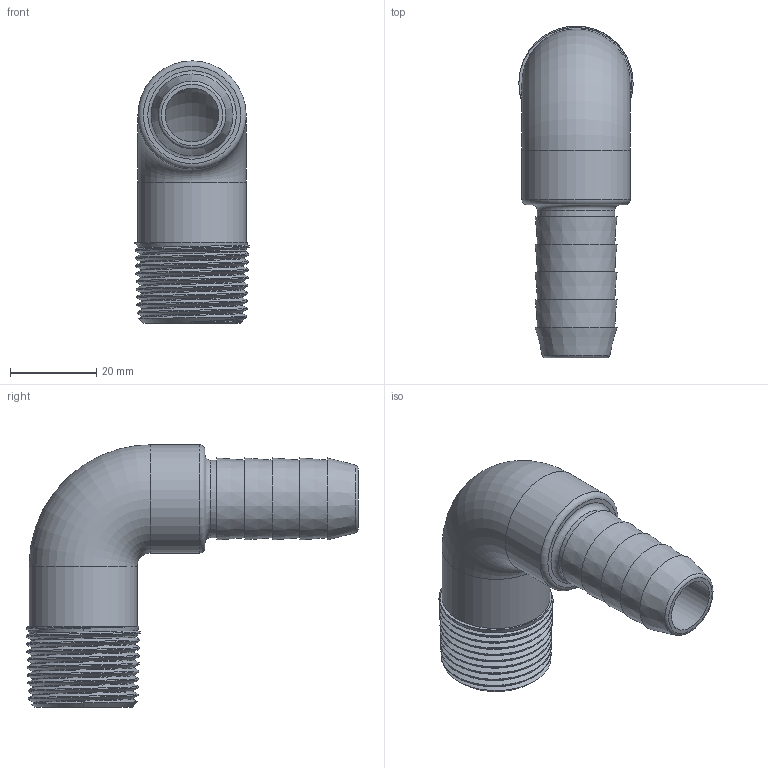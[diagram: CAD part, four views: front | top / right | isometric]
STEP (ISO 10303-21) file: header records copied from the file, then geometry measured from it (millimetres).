
FILE_DESCRIPTION(/* description */ ('Alibre Inc.'),/* implementation_level */ '2;1');
FILE_NAME(/* name */ 'export0',/* time_stamp */ '2016-11-29T12:06:10-05:00',/* author */ (''),/* organization */ (''),/* preprocessor_version */ 'ST-DEVELOPER v14',/* originating_system */ 'Alibre',/* authorisation */ '');
FILE_SCHEMA (('CONFIG_CONTROL_DESIGN'));
Length unit declared in the file: centimetre
Products named in the file (1): ID_1
Bounding box: 26.56 x 77.16 x 60.96 mm (x, y, z)
Volume: 21637.8 mm3; surface area: 14541.2 mm2
Topology: 1 solids, 1 shells, 61 faces, 148 edges, 97 vertices
Faces by surface type: cone 35, plane 11, cylinder 7, torus 5, bspline 3
Full cylindrical faces by diameter (mm): 12.446 x1, 18.034 x1, 19.05 x2, 25.146 x2
Entity records: 23419 total; most frequent: CARTESIAN_POINT 22106, ORIENTED_EDGE 258, DIRECTION 197, EDGE_CURVE 129, VERTEX_POINT 94, AXIS2_PLACEMENT_3D 93, EDGE_LOOP 87, FACE_BOUND 87
